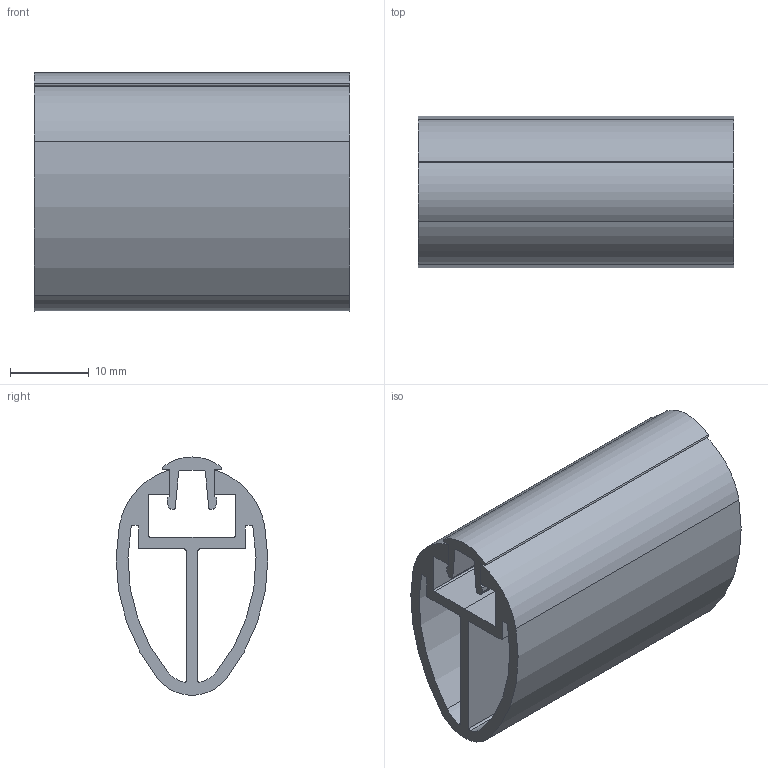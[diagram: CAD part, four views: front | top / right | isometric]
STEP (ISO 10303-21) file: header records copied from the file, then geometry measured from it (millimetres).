
FILE_DESCRIPTION(('CATIA V5 STEP Exchange','CAx-IF Rec.Pracs.--- Model Styling and Organization---1.4--- 2014-01-23','CAx-IF Rec.Pracs.---3D Tessellated Data Validation Properties---0.5---2014-09-14'),'2;1');
FILE_NAME('C:\Users\Admin\Downloads\WORK FL\FL2\28.09\stp\CT2.stp','2023-09-28T07:22:20+00:00',('none'),('none'),'CATIA Version 5-6 Release 2018 SP6','CATIA V5 STEP AP242','none');
FILE_SCHEMA(('AP242_MANAGED_MODEL_BASED_3D_ENGINEERING_MIM_LF {1 0 10303 442 1 1 4}'));
Length unit declared in the file: millimetre
Products named in the file (1): CT2
Bounding box: 40 x 19.24 x 30.21 mm (x, y, z)
Volume: 7320.6 mm3; surface area: 9859.4 mm2
Topology: 2 solids, 2 shells, 76 faces, 216 edges, 144 vertices
Faces by surface type: cylinder 40, plane 36
Entity records: 2415 total; most frequent: ORIENTED_EDGE 432, CARTESIAN_POINT 429, DIRECTION 352, EDGE_CURVE 216, AXIS2_PLACEMENT_3D 149, VERTEX_POINT 144, VECTOR 136, LINE 136
